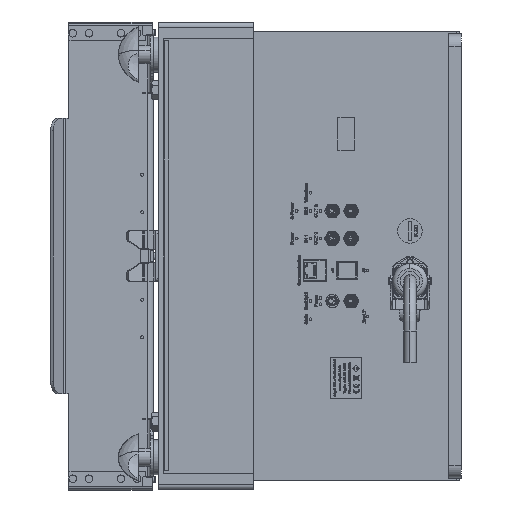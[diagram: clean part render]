
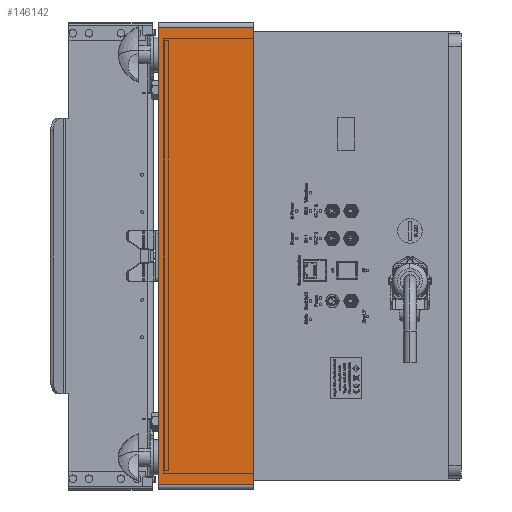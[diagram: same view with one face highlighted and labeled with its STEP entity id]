
A CAD part, left-side view. The second image highlights one B-rep face of the part: STEP entity #146142.
In plain terms, the highlighted planar face has unit normal (-1, 0, 0).
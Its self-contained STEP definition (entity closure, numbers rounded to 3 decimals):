
#4844 = VECTOR ( 'NONE', #21297, 1000. ) ;
#7278 = VECTOR ( 'NONE', #172302, 1000. ) ;
#10302 = VERTEX_POINT ( 'NONE', #129816 ) ;
#21297 = DIRECTION ( 'NONE',  ( 0., 0., 1. ) ) ;
#21712 = EDGE_CURVE ( 'NONE', #103489, #200369, #184167, .T. ) ;
#21926 = DIRECTION ( 'NONE',  ( -1., 0., 0. ) ) ;
#24163 = FACE_OUTER_BOUND ( 'NONE', #137042, .T. ) ;
#26568 = EDGE_CURVE ( 'NONE', #255548, #103489, #225177, .T. ) ;
#30695 = CARTESIAN_POINT ( 'NONE',  ( -286., 242., -183. ) ) ;
#34791 = EDGE_CURVE ( 'NONE', #255548, #10302, #60877, .T. ) ;
#38315 = ORIENTED_EDGE ( 'NONE', *, *, #142819, .F. ) ;
#39792 = CARTESIAN_POINT ( 'NONE',  ( -286., 242., 0. ) ) ;
#42905 = ORIENTED_EDGE ( 'NONE', *, *, #26568, .F. ) ;
#47380 = CARTESIAN_POINT ( 'NONE',  ( -286., 242., 183. ) ) ;
#51933 = CARTESIAN_POINT ( 'NONE',  ( -286., 921.418, -183. ) ) ;
#52844 = DIRECTION ( 'NONE',  ( 0., -1., 0. ) ) ;
#60877 = LINE ( 'NONE', #51933, #7278 ) ;
#103489 = VERTEX_POINT ( 'NONE', #47380 ) ;
#106661 = CARTESIAN_POINT ( 'NONE',  ( -286., 166., 0. ) ) ;
#116666 = CARTESIAN_POINT ( 'NONE',  ( -286., 166., 183. ) ) ;
#129816 = CARTESIAN_POINT ( 'NONE',  ( -286., 166., -183. ) ) ;
#130499 = VECTOR ( 'NONE', #52844, 1000. ) ;
#134592 = AXIS2_PLACEMENT_3D ( 'NONE', #142325, #21926, #162576 ) ;
#134752 = ORIENTED_EDGE ( 'NONE', *, *, #34791, .T. ) ;
#137042 = EDGE_LOOP ( 'NONE', ( #134752, #38315, #223754, #42905 ) ) ;
#142325 = CARTESIAN_POINT ( 'NONE',  ( -286., 921.418, 0. ) ) ;
#142819 = EDGE_CURVE ( 'NONE', #200369, #10302, #154500, .T. ) ;
#146142 = ADVANCED_FACE ( 'NONE', ( #24163 ), #182040, .T. ) ;
#154500 = LINE ( 'NONE', #106661, #207999 ) ;
#162576 = DIRECTION ( 'NONE',  ( 0., 0., 1. ) ) ;
#172302 = DIRECTION ( 'NONE',  ( 0., -1., 0. ) ) ;
#182040 = PLANE ( 'NONE',  #134592 ) ;
#184167 = LINE ( 'NONE', #192583, #130499 ) ;
#192583 = CARTESIAN_POINT ( 'NONE',  ( -286., 921.418, 183. ) ) ;
#200369 = VERTEX_POINT ( 'NONE', #116666 ) ;
#207999 = VECTOR ( 'NONE', #243133, 1000. ) ;
#223754 = ORIENTED_EDGE ( 'NONE', *, *, #21712, .F. ) ;
#225177 = LINE ( 'NONE', #39792, #4844 ) ;
#243133 = DIRECTION ( 'NONE',  ( 0., 0., -1. ) ) ;
#255548 = VERTEX_POINT ( 'NONE', #30695 ) ;
